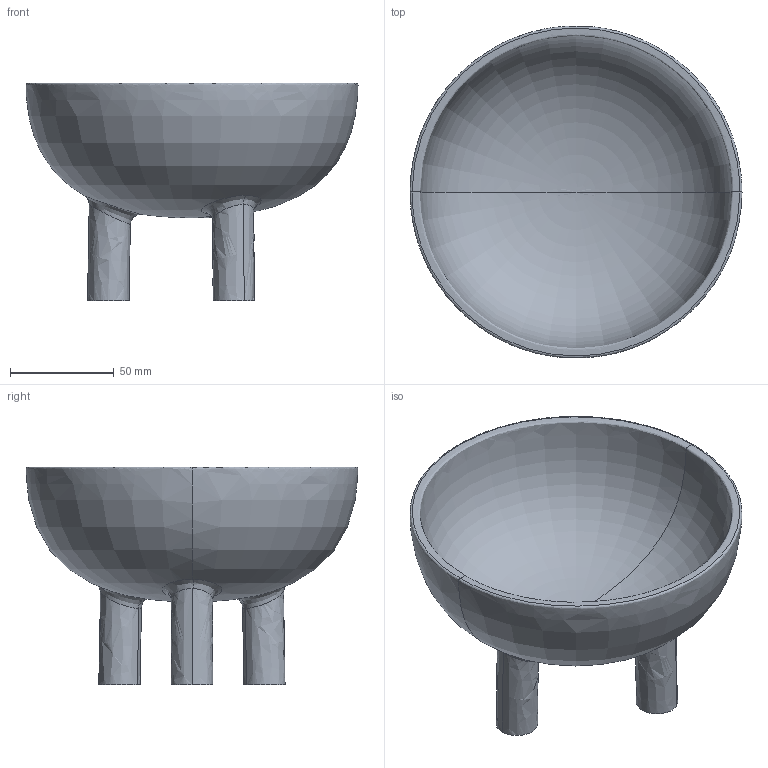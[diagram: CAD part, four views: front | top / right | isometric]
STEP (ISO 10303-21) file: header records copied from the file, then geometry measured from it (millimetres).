
FILE_DESCRIPTION(/* description */ (''),/* implementation_level */ '2;1');
FILE_NAME(/* name */ 'Duck Bowl Big',/* time_stamp */ '2020-03-03T14:13:51+01:00',/* author */ (''),/* organization */ (''),/* preprocessor_version */ 'ST-DEVELOPER v15',/* originating_system */ '',/* authorisation */ '');
FILE_SCHEMA (('AUTOMOTIVE_DESIGN'));
Length unit declared in the file: millimetre
Products named in the file (1): Document
Bounding box: 159.97 x 159.84 x 105 mm (x, y, z)
Volume: 219062.1 mm3; surface area: 80847.6 mm2
Topology: 1 solids, 1 shells, 19 faces, 43 edges, 24 vertices
Faces by surface type: bspline 16, plane 3
Entity records: 1941 total; most frequent: CARTESIAN_POINT 1698, ORIENTED_EDGE 78, EDGE_CURVE 39, VERTEX_POINT 24, EDGE_LOOP 21, ADVANCED_FACE 19, FACE_OUTER_BOUND 19, B_SPLINE_CURVE_WITH_KNOTS 7
